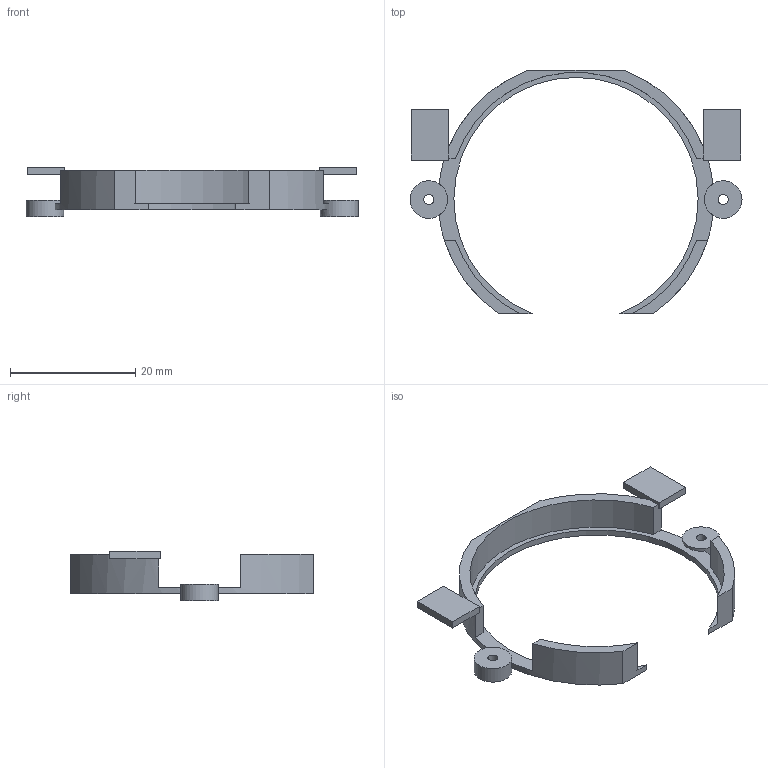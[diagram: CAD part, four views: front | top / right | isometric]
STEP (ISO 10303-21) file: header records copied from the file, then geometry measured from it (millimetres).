
FILE_DESCRIPTION(('Open CASCADE Model'),'2;1');
FILE_NAME('Open CASCADE Shape Model','2026-09-09T12:58:10',('Author'),( 'Open CASCADE'),'Open CASCADE STEP processor 7.9','Open CASCADE 7.9' ,'Unknown');
FILE_SCHEMA(('AUTOMOTIVE_DESIGN { 1 0 10303 214 1 1 1 1 }'));
Length unit declared in the file: millimetre
Products named in the file (1): Open CASCADE STEP translator 7.9 3
Bounding box: 53 x 38.8 x 7.9 mm (x, y, z)
Volume: 1179.1 mm3; surface area: 2148.3 mm2
Topology: 1 solids, 1 shells, 40 faces, 111 edges, 74 vertices
Faces by surface type: plane 28, cylinder 12
Full cylindrical faces by diameter (mm): 1.6 x2, 6 x2
Entity records: 2783 total; most frequent: CARTESIAN_POINT 606, DIRECTION 398, LINE 229, VECTOR 229, ORIENTED_EDGE 222, PCURVE 222, DEFINITIONAL_REPRESENTATION 222, EDGE_CURVE 111
